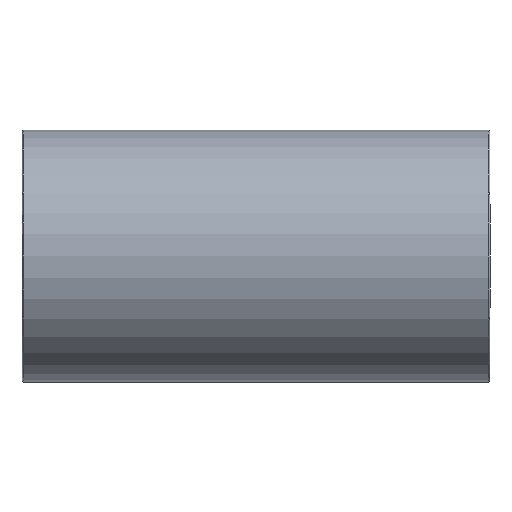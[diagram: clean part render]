
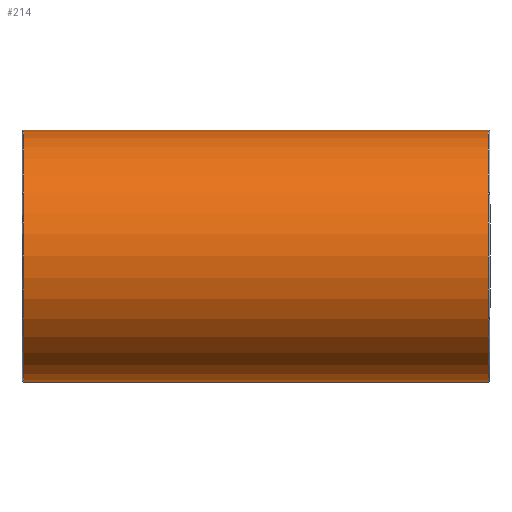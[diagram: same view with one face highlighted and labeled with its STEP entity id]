
A CAD part, front view. The second image highlights one B-rep face of the part: STEP entity #214.
In plain terms, the highlighted cylindrical face has radius 21 mm (diameter 42 mm), a full revolution.
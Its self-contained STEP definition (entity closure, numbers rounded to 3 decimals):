
#27=B_SPLINE_CURVE_WITH_KNOTS('',3,(#355,#356,#357,#358,#359,#360,#361,
#362,#363,#364,#365,#366,#367,#368,#369,#370,#371,#372,#373,#374,#375,#376,
#377,#378,#379,#380,#381,#382,#383,#384,#385,#386,#387,#388,#389,#390,#391,
#392,#393,#394,#395,#396,#397,#398,#399,#400,#401,#402,#403,#404,#405,#406,
#407,#408,#409,#410,#411,#412,#413,#414,#415,#416,#417,#418,#419,#420),
 .UNSPECIFIED.,.T.,.F.,(4,2,2,2,2,2,2,2,2,2,2,2,2,2,2,2,2,2,2,2,2,2,2,2,
2,2,2,2,2,2,2,2,4),(0.,0.336,0.673,1.009,
1.346,1.673,2.,2.327,2.654,
2.981,3.309,3.636,3.963,4.299,
4.636,4.972,5.309,5.645,5.982,
6.318,6.655,6.982,7.309,7.636,
7.963,8.29,8.617,8.944,9.271,
9.608,9.944,10.281,10.617),
 .UNSPECIFIED.);
#29=FACE_BOUND('',#70,.T.);
#30=FACE_BOUND('',#71,.T.);
#50=FACE_OUTER_BOUND('',#69,.T.);
#69=EDGE_LOOP('',(#167));
#70=EDGE_LOOP('',(#168));
#71=EDGE_LOOP('',(#169));
#109=CIRCLE('',#236,21.);
#110=CIRCLE('',#237,21.);
#127=VERTEX_POINT('',#350);
#128=VERTEX_POINT('',#352);
#129=VERTEX_POINT('',#354);
#147=EDGE_CURVE('',#127,#127,#109,.T.);
#148=EDGE_CURVE('',#128,#128,#110,.T.);
#149=EDGE_CURVE('',#129,#129,#27,.T.);
#167=ORIENTED_EDGE('',*,*,#147,.F.);
#168=ORIENTED_EDGE('',*,*,#148,.F.);
#169=ORIENTED_EDGE('',*,*,#149,.F.);
#207=CYLINDRICAL_SURFACE('',#235,21.);
#214=ADVANCED_FACE('',(#50,#29,#30),#207,.T.);
#235=AXIS2_PLACEMENT_3D('',#349,#274,#275);
#236=AXIS2_PLACEMENT_3D('',#351,#276,#277);
#237=AXIS2_PLACEMENT_3D('',#353,#278,#279);
#274=DIRECTION('center_axis',(1.,0.,0.));
#275=DIRECTION('ref_axis',(0.,1.,0.));
#276=DIRECTION('center_axis',(-1.,0.,0.));
#277=DIRECTION('ref_axis',(0.,-1.,0.));
#278=DIRECTION('center_axis',(1.,0.,0.));
#279=DIRECTION('ref_axis',(0.,-1.,0.));
#349=CARTESIAN_POINT('Origin',(0.,0.,
0.));
#350=CARTESIAN_POINT('',(-38.68,21.,0.));
#351=CARTESIAN_POINT('Origin',(-38.68,0.,0.));
#352=CARTESIAN_POINT('',(38.68,21.,0.));
#353=CARTESIAN_POINT('Origin',(38.68,0.,0.));
#354=CARTESIAN_POINT('',(0.,12.99,16.5));
#355=CARTESIAN_POINT('Ctrl Pts',(0.,12.99,
16.5));
#356=CARTESIAN_POINT('Ctrl Pts',(1.122,12.99,16.5));
#357=CARTESIAN_POINT('Ctrl Pts',(2.238,13.14,16.385));
#358=CARTESIAN_POINT('Ctrl Pts',(4.405,13.677,15.94));
#359=CARTESIAN_POINT('Ctrl Pts',(5.455,14.061,15.61));
#360=CARTESIAN_POINT('Ctrl Pts',(7.45,14.948,14.762));
#361=CARTESIAN_POINT('Ctrl Pts',(8.395,15.451,14.244));
#362=CARTESIAN_POINT('Ctrl Pts',(10.146,16.467,13.055));
#363=CARTESIAN_POINT('Ctrl Pts',(10.95,16.982,12.384));
#364=CARTESIAN_POINT('Ctrl Pts',(12.364,17.926,10.97));
#365=CARTESIAN_POINT('Ctrl Pts',(13.031,18.395,10.177));
#366=CARTESIAN_POINT('Ctrl Pts',(14.224,19.259,8.429));
#367=CARTESIAN_POINT('Ctrl Pts',(14.751,19.654,7.473));
#368=CARTESIAN_POINT('Ctrl Pts',(15.612,20.308,5.452));
#369=CARTESIAN_POINT('Ctrl Pts',(15.946,20.567,4.383));
#370=CARTESIAN_POINT('Ctrl Pts',(16.39,20.913,2.202));
#371=CARTESIAN_POINT('Ctrl Pts',(16.5,21.,1.09));
#372=CARTESIAN_POINT('Ctrl Pts',(16.5,21.,-1.09));
#373=CARTESIAN_POINT('Ctrl Pts',(16.39,20.913,-2.202));
#374=CARTESIAN_POINT('Ctrl Pts',(15.946,20.567,-4.383));
#375=CARTESIAN_POINT('Ctrl Pts',(15.612,20.308,-5.452));
#376=CARTESIAN_POINT('Ctrl Pts',(14.751,19.654,-7.473));
#377=CARTESIAN_POINT('Ctrl Pts',(14.224,19.259,-8.429));
#378=CARTESIAN_POINT('Ctrl Pts',(13.031,18.395,-10.177));
#379=CARTESIAN_POINT('Ctrl Pts',(12.364,17.926,-10.97));
#380=CARTESIAN_POINT('Ctrl Pts',(10.95,16.982,-12.384));
#381=CARTESIAN_POINT('Ctrl Pts',(10.146,16.467,-13.055));
#382=CARTESIAN_POINT('Ctrl Pts',(8.395,15.451,-14.244));
#383=CARTESIAN_POINT('Ctrl Pts',(7.45,14.948,-14.762));
#384=CARTESIAN_POINT('Ctrl Pts',(5.455,14.061,-15.61));
#385=CARTESIAN_POINT('Ctrl Pts',(4.405,13.677,-15.94));
#386=CARTESIAN_POINT('Ctrl Pts',(2.238,13.14,-16.385));
#387=CARTESIAN_POINT('Ctrl Pts',(1.122,12.99,-16.5));
#388=CARTESIAN_POINT('Ctrl Pts',(-1.122,12.99,-16.5));
#389=CARTESIAN_POINT('Ctrl Pts',(-2.238,13.14,-16.385));
#390=CARTESIAN_POINT('Ctrl Pts',(-4.405,13.677,-15.94));
#391=CARTESIAN_POINT('Ctrl Pts',(-5.455,14.061,-15.61));
#392=CARTESIAN_POINT('Ctrl Pts',(-7.45,14.948,-14.762));
#393=CARTESIAN_POINT('Ctrl Pts',(-8.395,15.451,-14.244));
#394=CARTESIAN_POINT('Ctrl Pts',(-10.146,16.467,-13.055));
#395=CARTESIAN_POINT('Ctrl Pts',(-10.95,16.982,-12.384));
#396=CARTESIAN_POINT('Ctrl Pts',(-12.364,17.926,-10.97));
#397=CARTESIAN_POINT('Ctrl Pts',(-13.031,18.395,-10.177));
#398=CARTESIAN_POINT('Ctrl Pts',(-14.224,19.259,-8.429));
#399=CARTESIAN_POINT('Ctrl Pts',(-14.751,19.654,-7.473));
#400=CARTESIAN_POINT('Ctrl Pts',(-15.612,20.308,-5.452));
#401=CARTESIAN_POINT('Ctrl Pts',(-15.946,20.567,-4.383));
#402=CARTESIAN_POINT('Ctrl Pts',(-16.39,20.913,-2.202));
#403=CARTESIAN_POINT('Ctrl Pts',(-16.5,21.,-1.09));
#404=CARTESIAN_POINT('Ctrl Pts',(-16.5,21.,1.09));
#405=CARTESIAN_POINT('Ctrl Pts',(-16.39,20.913,2.202));
#406=CARTESIAN_POINT('Ctrl Pts',(-15.946,20.567,4.383));
#407=CARTESIAN_POINT('Ctrl Pts',(-15.612,20.308,5.452));
#408=CARTESIAN_POINT('Ctrl Pts',(-14.751,19.654,7.473));
#409=CARTESIAN_POINT('Ctrl Pts',(-14.224,19.259,8.429));
#410=CARTESIAN_POINT('Ctrl Pts',(-13.031,18.395,10.177));
#411=CARTESIAN_POINT('Ctrl Pts',(-12.364,17.926,10.97));
#412=CARTESIAN_POINT('Ctrl Pts',(-10.95,16.982,12.384));
#413=CARTESIAN_POINT('Ctrl Pts',(-10.146,16.467,13.055));
#414=CARTESIAN_POINT('Ctrl Pts',(-8.395,15.451,14.244));
#415=CARTESIAN_POINT('Ctrl Pts',(-7.45,14.948,14.762));
#416=CARTESIAN_POINT('Ctrl Pts',(-5.455,14.061,15.61));
#417=CARTESIAN_POINT('Ctrl Pts',(-4.405,13.677,15.94));
#418=CARTESIAN_POINT('Ctrl Pts',(-2.238,13.14,16.385));
#419=CARTESIAN_POINT('Ctrl Pts',(-1.122,12.99,16.5));
#420=CARTESIAN_POINT('Ctrl Pts',(0.,12.99,16.5));
